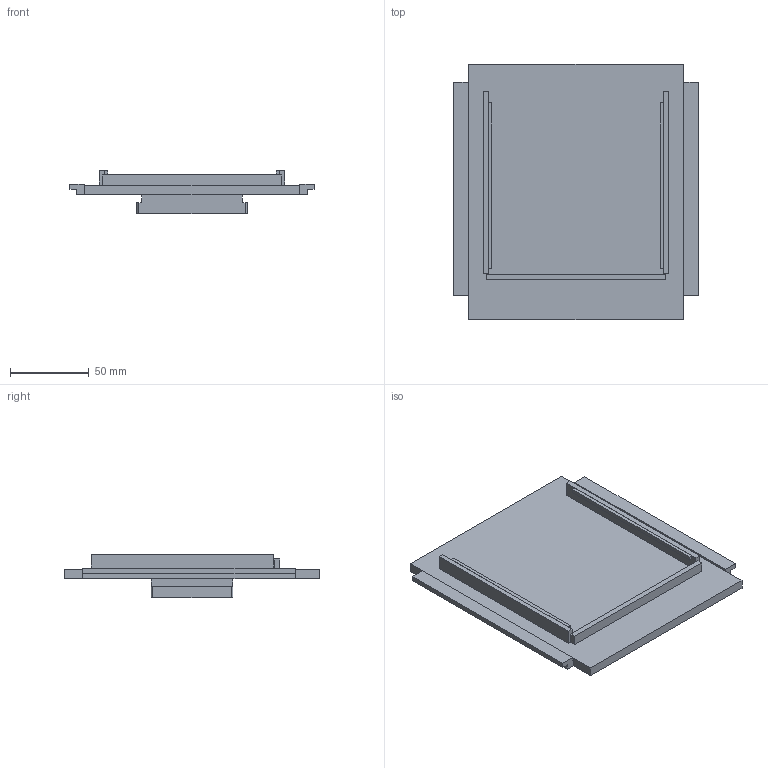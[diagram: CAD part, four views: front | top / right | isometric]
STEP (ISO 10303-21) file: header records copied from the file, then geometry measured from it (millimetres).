
FILE_DESCRIPTION(('Open CASCADE Model'),'2;1');
FILE_NAME('Open CASCADE Shape Model','2026-10-18T14:32:08',('Author'),( 'Open CASCADE'),'Open CASCADE STEP processor 7.9','Open CASCADE 7.9' ,'Unknown');
FILE_SCHEMA(('AUTOMOTIVE_DESIGN { 1 0 10303 214 1 1 1 1 }'));
Length unit declared in the file: millimetre
Products named in the file (1): Open CASCADE STEP translator 7.9 1
Bounding box: 155 x 162 x 27.4 mm (x, y, z)
Volume: 197869.2 mm3; surface area: 64480.9 mm2
Topology: 1 solids, 1 shells, 64 faces, 168 edges, 112 vertices
Faces by surface type: plane 60, cylinder 4
Entity records: 4086 total; most frequent: CARTESIAN_POINT 747, DIRECTION 586, LINE 434, VECTOR 434, ORIENTED_EDGE 336, PCURVE 336, DEFINITIONAL_REPRESENTATION 336, EDGE_CURVE 168
